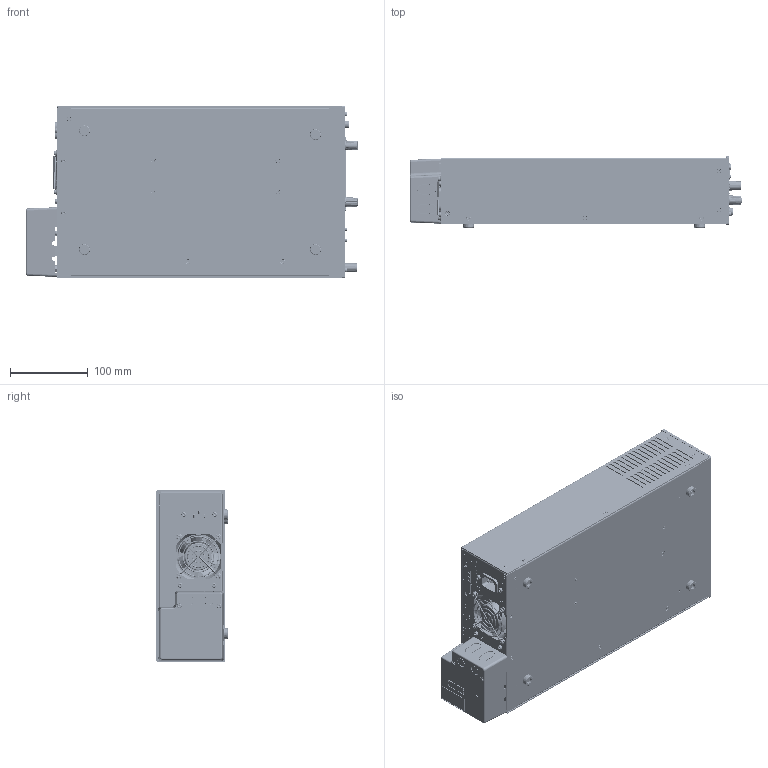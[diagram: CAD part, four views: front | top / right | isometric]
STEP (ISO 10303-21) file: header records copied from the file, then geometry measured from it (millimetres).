
FILE_DESCRIPTION(/* description */ (''),/* implementation_level */ '2;1');
FILE_NAME(/* name */ 'A:\Data\SM800\presentation\assembly SM800 outside P258_Shrinkwrap_1.stp',/* time_stamp */ '2021-01-11T16:59:20+01:00',/* author */ ('Delta'),/* organization */ (''),/* preprocessor_version */ 'ST-DEVELOPER v17.2',/* originating_system */ 'Autodesk Inventor 2019',/* authorisation */ '');
FILE_SCHEMA (('AUTOMOTIVE_DESIGN { 1 0 10303 214 3 1 1 }'));
Products named in the file (1): assembly SM800 outside P258_Shrinkwrap_1
Bounding box: 427.5 x 91.55 x 222 mm (x, y, z)
Volume: 6856936.4 mm3; surface area: 397930.6 mm2
Topology: 1 solids, 1 shells, 8897 faces, 23501 edges, 15251 vertices
Faces by surface type: plane 5520, bspline 1726, cylinder 889, cone 503, torus 197, sphere 62
Full cylindrical faces by diameter (mm): 0.393 x1, 0.5 x16, 0.7 x1, 1 x6, 1.1 x15, 1.409 x1, 1.5 x16, 2 x2, 2.156 x2, 2.2 x4, 2.5 x6, 2.73 x2, 3 x27, 3.1 x4, 3.2 x23, 3.4 x4, 3.5 x15, 4 x6, 4.2 x6, 4.25 x6, 4.3 x6, 4.4 x4, 4.6 x2, 5 x5, 5.2 x2, 5.5 x25, 6 x27, 6.5 x2, 6.7 x2, 6.8 x4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
Entity records: 296643 total; most frequent: CARTESIAN_POINT 78773, ORIENTED_EDGE 46866, DIRECTION 36946, EDGE_CURVE 23433, LINE 15280, VECTOR 15280, VERTEX_POINT 15251, AXIS2_PLACEMENT_3D 10833
